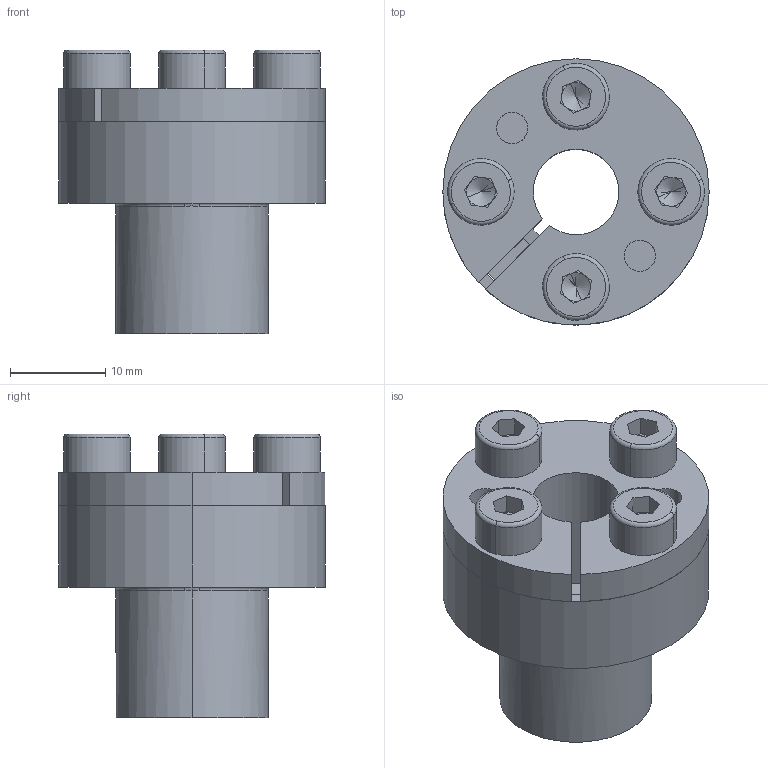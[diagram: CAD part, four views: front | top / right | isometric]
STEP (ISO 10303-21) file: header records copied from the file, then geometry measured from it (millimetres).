
FILE_DESCRIPTION (( 'STEP AP214' ), '1' );
FILE_NAME ('CONEX-B-09x16.step', '2013-04-04T12:40:59', ( 'Pc' ), ( '' ), 'SwSTEP 2.0', 'SolidWorks 2013', '' );
FILE_SCHEMA (( 'AUTOMOTIVE_DESIGN' ));
Length unit declared in the file: millimetre
Products named in the file (1): CONEX-B-09x16
Bounding box: 28 x 28 x 29.84 mm (x, y, z)
Volume: 7800.3 mm3; surface area: 8798.1 mm2
Topology: 7 solids, 7 shells, 174 faces, 430 edges, 260 vertices
Faces by surface type: plane 72, cylinder 52, torus 24, cone 22, bspline 4
Entity records: 7374 total; most frequent: CARTESIAN_POINT 1135, DIRECTION 958, ORIENTED_EDGE 844, EDGE_CURVE 422, AXIS2_PLACEMENT_3D 387, VERTEX_POINT 260, CIRCLE 216, EDGE_LOOP 194
